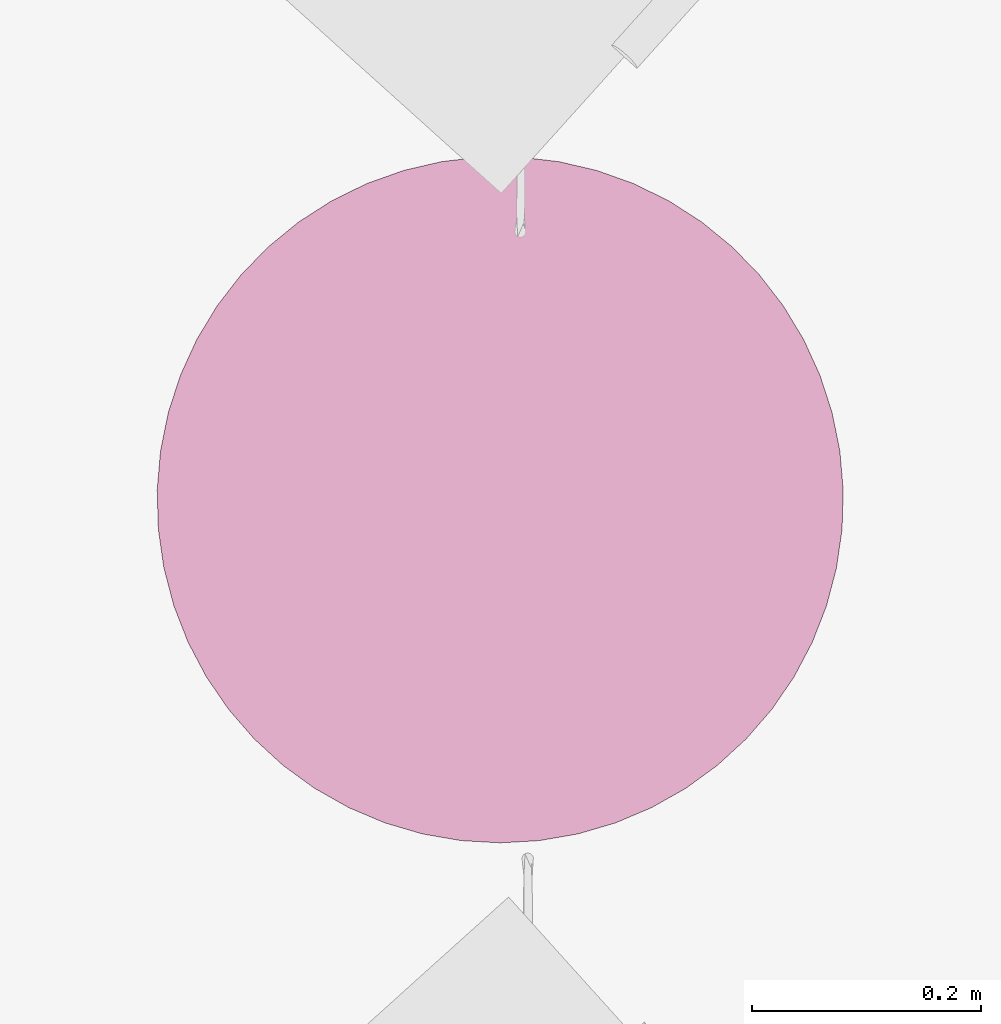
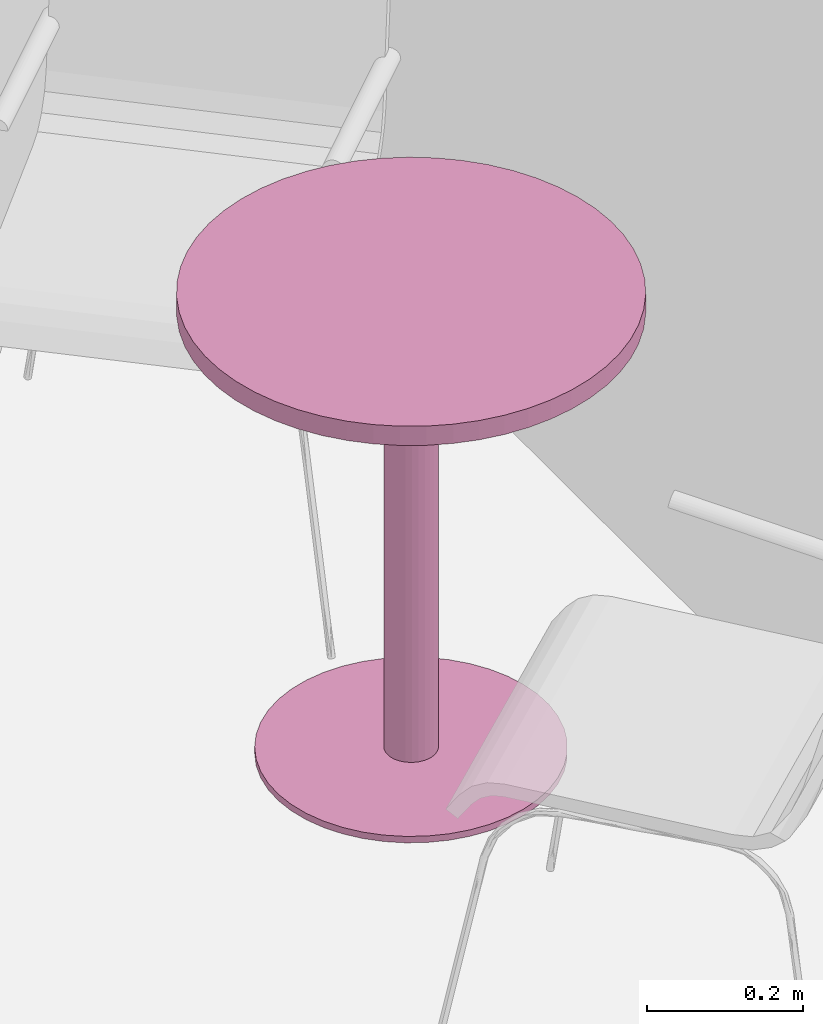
# One storey, part 48 of 58: 1 furnishing.
"""IFC2X3 building model written with IfcOpenShell, lengths in millimetres."""

from ifc_helpers import new_model, entity, si_unit, converted_unit, derived_unit, direction, frame, frame_2d, origin, place, context, subcontext, project, spatial, circle, extrude, source, transform, mapped, material, material_list, type_object, type_shapes, element, save


model = new_model("IFC2X3")

# Units and contexts
model_context = context("Model", 3, precision=0.01, world=origin(), true_north=direction((0.7716245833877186, 0.6360782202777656)))
body_context = subcontext(model_context, "Body", "Model", "MODEL_VIEW")
ifc_project = project(units=[si_unit("LENGTHUNIT", "METRE", prefix="MILLI"), si_unit("AREAUNIT", "SQUARE_METRE"), converted_unit("PLANEANGLEUNIT", "DEGREE", entity("IfcPlaneAngleMeasure", 0.017453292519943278), si_unit("PLANEANGLEUNIT", "RADIAN"), dimensions=[0, 0, 0, 0, 0, 0, 0]), derived_unit("THERMALTRANSMITTANCEUNIT", [(si_unit("MASSUNIT", "GRAM", prefix="KILO"), 1), (si_unit("THERMODYNAMICTEMPERATUREUNIT", "KELVIN"), -1), (si_unit("TIMEUNIT", "SECOND"), -3)])], contexts=[model_context])

# Site, building, storey, space
site_placement = place(None, origin())
site = spatial("IfcSite", under=ifc_project, at=site_placement, Name="Default", CompositionType="ELEMENT")
building_placement = place(site_placement, origin())
building = spatial("IfcBuilding", under=site, at=building_placement, CompositionType="ELEMENT")
storey_placement = place(building_placement, frame((0.0, 0.0, 31140.0)))
storey = spatial("IfcBuildingStorey", under=building, at=storey_placement, Name="PLAN U1", CompositionType="ELEMENT", Elevation=31140.000000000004)
space_placement = place(storey_placement, origin())
space = spatial("IfcSpace", under=storey, at=space_placement, Name="B5-324", CompositionType="ELEMENT", InteriorOrExteriorSpace="INTERNAL")

# Furnishing
ifc_material_1 = material(Name="Plate")
ifc_material_2 = material(Name="Metall")
ifc_material_list = material_list([ifc_material_1, ifc_material_2])
furniture_type = type_object("IfcFurnitureType", Name="Bord-rundt:Bord, Ø600", AssemblyPlace="NOTDEFINED", material=ifc_material_list)
shared_shape = source(origin(), body_context, "Body", "SweptSolid", [
    extrude(circle(Radius=300.0, at=frame_2d((0.0, -4.846633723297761e-13), x_axis=(1.0, 0.0))), frame((0.0, 0.0, 690.0)), (0.0, 0.0, 1.0), 29.99999999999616),
    extrude(circle(Radius=35.0, at=frame_2d((-4.3957322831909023e-16, -5.6544060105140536e-14), x_axis=(1.0, 0.0))), frame((0.0, 0.0, 10.0)), (0.0, 0.0, 1.0), 680.0000000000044),
    extrude(circle(Radius=200.0, at=frame_2d((-8.4218585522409e-15, -3.2310891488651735e-13), x_axis=(1.0, 0.0))), origin(), (0.0, 0.0, 1.0), 10.000000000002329),
])
type_shapes(furniture_type, [shared_shape])
furnishing_placement = place(space_placement, frame((270222.92444647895, 56426.334865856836, 0.0), z_axis=(0.0, 0.0, 1.0), x_axis=(0.0, -1.0, 0.0)))
element("IfcFurnishingElement", 1, at=furnishing_placement, inside=space, type_object=furniture_type, material=ifc_material_list, Name="Bord-rundt:Bord, Ø600", ObjectType="Bord-rundt:Bord, Ø600", context=body_context, shape_type="MappedRepresentation", body=[
    mapped(shared_shape, transform((0.0, 0.0, 0.0), scale=1.0)),
])

save(model, "model.ifc")
